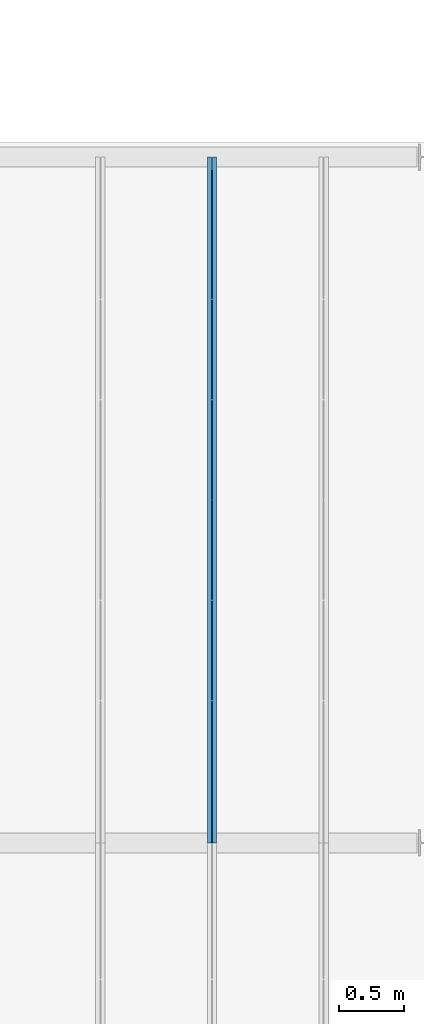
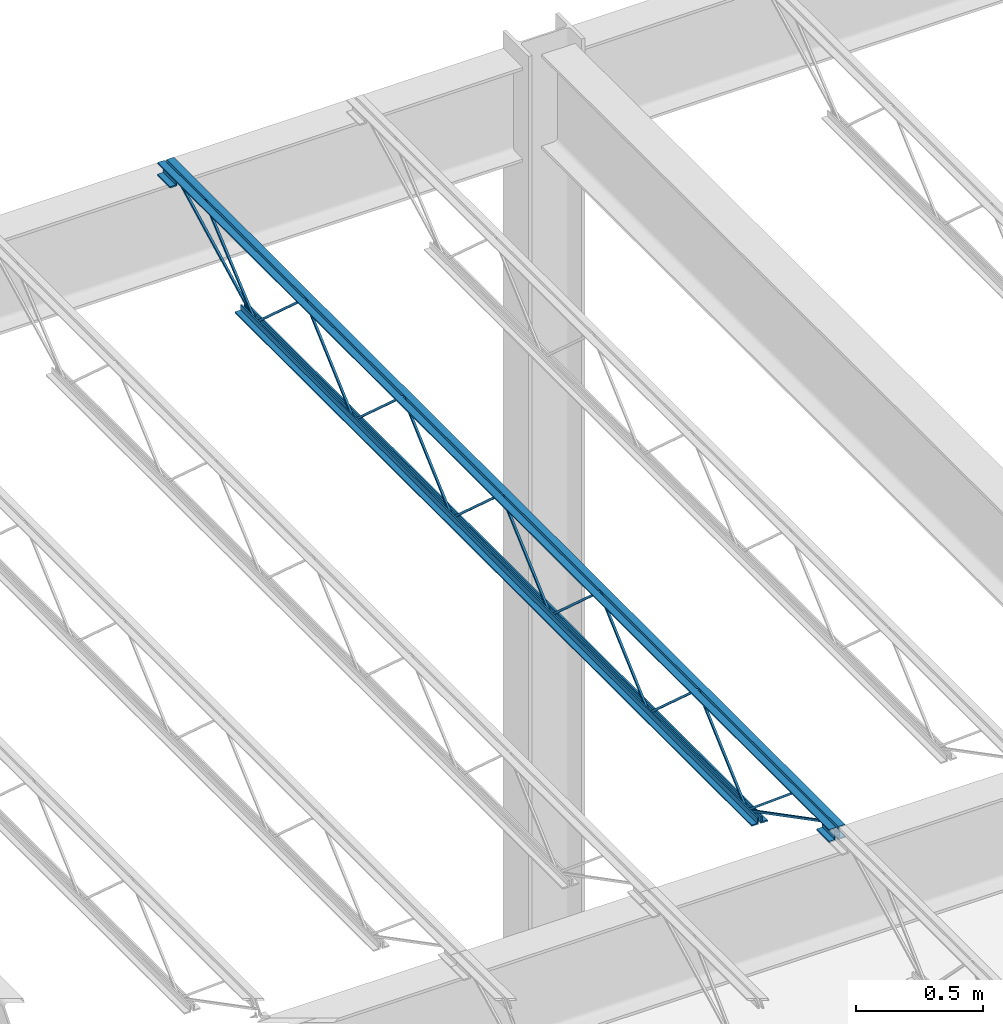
# One storey, part 104 of 119: 1 beam.
"""IFC2X3 building model written with IfcOpenShell, lengths in metres."""

from ifc_helpers import new_model, entity, si_unit, converted_unit, frame, origin, place, context, project, spatial, face_set, surface_model, element, save


model = new_model("IFC2X3")

# Units and contexts
model_context = context("Model", 3, precision=1e-09, world=origin())
plan_context = context("Plan", 3, precision=1e-09, world=origin())
ifc_project = project(units=[si_unit("LENGTHUNIT", "METRE"), si_unit("AREAUNIT", "SQUARE_METRE"), si_unit("VOLUMEUNIT", "CUBIC_METRE"), converted_unit("PLANEANGLEUNIT", "DEGREE", entity("IfcRatioMeasure", 0.01745329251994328), si_unit("PLANEANGLEUNIT", "RADIAN"), dimensions=[0, 0, 0, 0, 0, 0, 0]), si_unit("TIMEUNIT", "SECOND")], contexts=[model_context, plan_context])

# Site, building, storey
site_placement = place(None, origin())
site = spatial("IfcSite", under=ifc_project, at=site_placement, Name="Default", CompositionType="ELEMENT")
building_placement = place(site_placement, origin())
building = spatial("IfcBuilding", under=site, at=building_placement, CompositionType="ELEMENT")
storey_placement = place(building_placement, frame((0.0, 0.0, 4.570000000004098)))
storey = spatial("IfcBuildingStorey", under=building, at=storey_placement, Name="Second Floor", CompositionType="ELEMENT", Elevation=4.570000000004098)

# Beam
beam_placement = place(storey_placement, frame((-16.64339999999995, 44.78049999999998, 4.323999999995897)))
element("IfcBeam", 1, at=beam_placement, inside=storey, Name="M_K-Series Bar Joist-Rod Web:14K1:14K1", ObjectType="M_K-Series Bar Joist-Rod Web:14K1", context=model_context, shape_type="SurfaceModel", body=[
    surface_model("IfcFaceBasedSurfaceModel", [(0.04150000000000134, 3.042999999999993, 0.01110000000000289), (0.0320000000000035, 3.042999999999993, 0.01110000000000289), (0.0320000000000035, 3.042999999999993, 0.001600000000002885), (0.04150000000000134, 3.042999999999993, 0.001600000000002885), (0.03200000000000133, 3.044354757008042, 0.01110000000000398), (0.04150000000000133, 3.044354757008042, 0.01110000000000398), (0.03200000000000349, 3.047995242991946, 0.001600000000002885), (0.03200000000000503, 3.430145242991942, 0.3449000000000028), (0.03200000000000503, 3.432854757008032, 0.3449000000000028), (0.03200000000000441, 3.815004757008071, 0.001600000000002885), (0.0320000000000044, 3.819999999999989, 0.001600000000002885), (0.0320000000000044, 3.819999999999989, 0.01110000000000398), (0.0320000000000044, 3.818645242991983, 0.01110000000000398), (0.03200000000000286, 3.436495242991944, 0.3544000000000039), (0.03200000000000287, 3.426504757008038, 0.3544000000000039), (0.0415000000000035, 3.047995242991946, 0.001600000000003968), (0.04150000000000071, 3.43014524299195, 0.3449000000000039), (0.0415000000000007, 3.432854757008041, 0.3449000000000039), (0.04150000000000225, 3.815004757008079, 0.001600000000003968), (0.04150000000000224, 3.819999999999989, 0.001600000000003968), (0.04150000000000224, 3.819999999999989, 0.01110000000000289), (0.04150000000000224, 3.818645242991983, 0.01110000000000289), (0.04150000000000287, 3.436495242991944, 0.3544000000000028), (0.04150000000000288, 3.426504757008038, 0.3544000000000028), (0.0415000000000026, 2.265999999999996, 0.01110000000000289), (0.03200000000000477, 2.265999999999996, 0.01110000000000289), (0.03200000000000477, 2.265999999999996, 0.001600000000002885), (0.0415000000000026, 2.265999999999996, 0.001600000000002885), (0.0320000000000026, 2.267354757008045, 0.01110000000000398), (0.0415000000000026, 2.267354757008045, 0.01110000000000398), (0.03200000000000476, 2.270995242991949, 0.001600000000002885), (0.03200000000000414, 2.653145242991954, 0.3449000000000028), (0.03200000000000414, 2.655854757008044, 0.3449000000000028), (0.03200000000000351, 3.038004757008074, 0.001600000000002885), (0.03200000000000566, 3.042999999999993, 0.01110000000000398), (0.03200000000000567, 3.041645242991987, 0.01110000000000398), (0.03200000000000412, 2.659495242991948, 0.3544000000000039), (0.03200000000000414, 2.649504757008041, 0.3544000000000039), (0.04150000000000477, 2.270995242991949, 0.001600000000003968), (0.04150000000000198, 2.653145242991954, 0.3449000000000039), (0.04150000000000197, 2.655854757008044, 0.3449000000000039), (0.04150000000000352, 3.038004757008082, 0.001600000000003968), (0.04150000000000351, 3.042999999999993, 0.001600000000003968), (0.04150000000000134, 3.041645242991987, 0.01110000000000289), (0.04150000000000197, 2.659495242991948, 0.3544000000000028), (0.04150000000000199, 2.649504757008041, 0.3544000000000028), (0.04150000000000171, 1.488999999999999, 0.01110000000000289), (0.03200000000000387, 1.488999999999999, 0.01110000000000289), (0.03200000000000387, 1.488999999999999, 0.001600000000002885), (0.04150000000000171, 1.488999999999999, 0.001600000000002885), (0.0320000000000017, 1.490354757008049, 0.01110000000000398), (0.04150000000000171, 1.490354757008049, 0.01110000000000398), (0.03200000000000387, 1.493995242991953, 0.001600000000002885), (0.03200000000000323, 1.876145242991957, 0.3449000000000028), (0.03200000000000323, 1.878854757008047, 0.3449000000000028), (0.03200000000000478, 2.261004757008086, 0.001600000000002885), (0.03200000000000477, 2.266000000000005, 0.001600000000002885), (0.03200000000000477, 2.265999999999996, 0.01110000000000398), (0.03200000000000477, 2.26464524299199, 0.01110000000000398), (0.03200000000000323, 1.882495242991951, 0.3544000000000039), (0.03200000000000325, 1.872504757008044, 0.3544000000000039), (0.04150000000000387, 1.493995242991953, 0.001600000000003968), (0.04150000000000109, 1.876145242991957, 0.3449000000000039), (0.04150000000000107, 1.878854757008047, 0.3449000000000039), (0.04150000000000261, 2.261004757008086, 0.001600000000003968), (0.0415000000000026, 2.265999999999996, 0.001600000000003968), (0.0415000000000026, 2.266000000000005, 0.01110000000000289), (0.04150000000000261, 2.26464524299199, 0.01110000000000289), (0.04150000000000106, 1.88249524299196, 0.3544000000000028), (0.04150000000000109, 1.872504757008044, 0.3544000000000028), (0.04149999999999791, 3.819999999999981, 0.01109999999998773), (0.03200000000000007, 3.819999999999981, 0.01109999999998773), (0.03200000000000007, 3.819999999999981, 0.001599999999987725), (0.04149999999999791, 3.819999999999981, 0.001599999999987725), (0.03200000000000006, 3.82135475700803, 0.01109999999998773), (0.04150000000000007, 3.82135475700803, 0.01109999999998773), (0.03200000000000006, 3.824995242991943, 0.001599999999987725), (0.03199999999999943, 4.207145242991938, 0.3448999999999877), (0.03199999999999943, 4.209854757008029, 0.3448999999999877), (0.03199999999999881, 4.592004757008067, 0.001599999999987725), (0.0319999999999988, 4.596999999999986, 0.001599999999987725), (0.03200000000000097, 4.596999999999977, 0.01109999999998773), (0.03200000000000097, 4.595645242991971, 0.01109999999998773), (0.03199999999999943, 4.213495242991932, 0.3543999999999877), (0.03199999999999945, 4.203504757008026, 0.3543999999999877), (0.04150000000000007, 3.824995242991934, 0.001599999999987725), (0.04149999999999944, 4.207145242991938, 0.3448999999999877), (0.04149999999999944, 4.209854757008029, 0.3448999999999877), (0.04150000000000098, 4.592004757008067, 0.001599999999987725), (0.04150000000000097, 4.596999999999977, 0.001599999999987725), (0.04149999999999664, 4.596999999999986, 0.01109999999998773), (0.04149999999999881, 4.59564524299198, 0.01109999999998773), (0.04149999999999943, 4.213495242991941, 0.3543999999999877), (0.04149999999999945, 4.203504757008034, 0.3543999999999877), (0.04150000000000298, 0.7120000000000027, 0.01110000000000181), (0.03200000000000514, 0.7120000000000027, 0.01110000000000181), (0.03200000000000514, 0.7120000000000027, 0.001600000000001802), (0.04150000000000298, 0.7120000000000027, 0.001600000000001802), (0.03200000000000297, 0.7133547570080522, 0.01110000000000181), (0.04150000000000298, 0.7133547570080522, 0.01110000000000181), (0.03200000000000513, 0.7169952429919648, 0.001600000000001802), (0.0320000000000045, 1.09914524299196, 0.3449000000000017), (0.0320000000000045, 1.101854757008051, 0.3449000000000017), (0.03200000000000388, 1.484004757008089, 0.001600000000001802), (0.03200000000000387, 1.489000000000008, 0.001600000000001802), (0.03200000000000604, 1.488999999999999, 0.01110000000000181), (0.03200000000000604, 1.487645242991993, 0.01110000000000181), (0.0320000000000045, 1.105495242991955, 0.3544000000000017), (0.03200000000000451, 1.095504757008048, 0.3544000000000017), (0.04150000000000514, 0.7169952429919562, 0.001600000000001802), (0.04150000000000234, 1.09914524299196, 0.3449000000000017), (0.04150000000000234, 1.101854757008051, 0.3449000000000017), (0.04150000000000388, 1.484004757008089, 0.001600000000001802), (0.04150000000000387, 1.488999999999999, 0.001600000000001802), (0.04150000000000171, 1.489000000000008, 0.01110000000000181), (0.04150000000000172, 1.487645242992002, 0.01110000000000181), (0.04150000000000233, 1.105495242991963, 0.3544000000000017), (0.04150000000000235, 1.095504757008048, 0.3544000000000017), (0.03200000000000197, 5.309000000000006, 0.3559999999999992), (0.0, 5.309000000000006, 0.3559999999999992), (0.0, 5.309000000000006, 0.3494999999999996), (0.02550000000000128, 5.309000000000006, 0.3494999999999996), (0.02550000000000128, 5.309000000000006, 0.3239999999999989), (0.03200000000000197, 5.309000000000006, 0.3239999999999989), (0.04150000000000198, 5.309000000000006, 0.3559999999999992), (0.04150000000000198, 5.309000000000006, 0.3239999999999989), (0.04800000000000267, 5.309000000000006, 0.3239999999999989), (0.04800000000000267, 5.309000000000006, 0.3494999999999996), (0.0735000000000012, 5.309000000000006, 0.3494999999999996), (0.0735000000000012, 5.309000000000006, 0.3559999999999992), (0.03200000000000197, 0.0, 0.3559999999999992), (0.0, 0.0, 0.3559999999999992), (0.0, 0.0, 0.3494999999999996), (0.02550000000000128, 0.0, 0.3494999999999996), (0.02550000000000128, 0.0, 0.3239999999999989), (0.03200000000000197, 0.0, 0.3239999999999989), (0.04150000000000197, 0.0, 0.3559999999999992), (0.04150000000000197, 0.0, 0.3239999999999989), (0.04800000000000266, 0.0, 0.3239999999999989), (0.04800000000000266, 0.0, 0.3494999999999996), (0.07350000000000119, 0.0, 0.3494999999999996), (0.07350000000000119, 0.0, 0.3559999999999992), (0.04150000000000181, 0.09999999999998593, 0.2924999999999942), (0.07350000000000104, 0.09999999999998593, 0.2924999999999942), (0.07350000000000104, 0.09999999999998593, 0.2989999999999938), (0.0480000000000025, 0.09999999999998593, 0.2989999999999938), (0.0480000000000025, 0.09999999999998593, 0.3239999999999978), (0.04150000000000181, 0.09999999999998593, 0.3239999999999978), (0.0, 0.09999999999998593, 0.2924999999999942), (0.03200000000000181, 0.09999999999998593, 0.2924999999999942), (0.03200000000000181, 0.09999999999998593, 0.3239999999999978), (0.02550000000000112, 0.09999999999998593, 0.3239999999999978), (0.02550000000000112, 0.09999999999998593, 0.2989999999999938), (0.0, 0.09999999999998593, 0.2989999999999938), (0.04150000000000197, 0.0, 0.2924999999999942), (0.07350000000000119, 0.0, 0.2924999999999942), (0.07350000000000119, 0.0, 0.2989999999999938), (0.04800000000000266, 0.0, 0.2989999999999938), (0.04800000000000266, 0.0, 0.3239999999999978), (0.04150000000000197, 0.0, 0.3239999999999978), (0.0, 0.0, 0.2924999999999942), (0.03200000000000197, 0.0, 0.2924999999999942), (0.03200000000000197, 0.0, 0.3239999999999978), (0.02550000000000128, 0.0, 0.3239999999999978), (0.02550000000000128, 0.0, 0.2989999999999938), (0.0, 0.0, 0.2989999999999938), (0.03200000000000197, 5.309000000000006, 0.2924999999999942), (0.03200000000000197, 5.309000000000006, 0.3239999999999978), (0.02550000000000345, 5.309000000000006, 0.3239999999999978), (0.02550000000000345, 5.309000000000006, 0.2989999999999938), (0.0, 5.309000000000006, 0.2989999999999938), (0.0, 5.309000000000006, 0.2924999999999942), (0.04150000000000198, 5.309000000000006, 0.2924999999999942), (0.07350000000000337, 5.309000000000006, 0.2924999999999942), (0.07350000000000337, 5.309000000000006, 0.2989999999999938), (0.04800000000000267, 5.309000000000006, 0.2989999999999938), (0.04800000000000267, 5.309000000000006, 0.3239999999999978), (0.04150000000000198, 5.309000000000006, 0.3239999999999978), (0.03200000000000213, 5.209000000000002, 0.2924999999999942), (0.03200000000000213, 5.209000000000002, 0.3239999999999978), (0.02550000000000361, 5.209000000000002, 0.3239999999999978), (0.02550000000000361, 5.209000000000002, 0.2989999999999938), (0.0, 5.209000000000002, 0.2989999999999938), (0.0, 5.209000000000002, 0.2924999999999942), (0.04150000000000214, 5.209000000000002, 0.2924999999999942), (0.07350000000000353, 5.209000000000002, 0.2924999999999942), (0.07350000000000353, 5.209000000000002, 0.2989999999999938), (0.04800000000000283, 5.209000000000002, 0.2989999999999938), (0.04800000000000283, 5.209000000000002, 0.3239999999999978), (0.04150000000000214, 5.209000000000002, 0.3239999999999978), (0.03200000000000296, 4.697000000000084, 0.0), (0.03200000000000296, 4.697000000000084, 0.03199999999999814), (0.02550000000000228, 4.697000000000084, 0.03199999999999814), (0.02550000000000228, 4.697000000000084, 0.006499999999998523), (0.0, 4.697000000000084, 0.006499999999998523), (0.0, 4.697000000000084, 0.0), (0.04150000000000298, 4.697000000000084, 0.0), (0.0735000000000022, 4.697000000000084, 0.0), (0.0735000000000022, 4.697000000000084, 0.006499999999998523), (0.04800000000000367, 4.697000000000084, 0.006499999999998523), (0.04800000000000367, 4.697000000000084, 0.03199999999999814), (0.04150000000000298, 4.697000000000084, 0.03199999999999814), (0.03200000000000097, 0.6120000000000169, 0.0), (0.03200000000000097, 0.6120000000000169, 0.03199999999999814), (0.02550000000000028, 0.6120000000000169, 0.03199999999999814), (0.02550000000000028, 0.6120000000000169, 0.006499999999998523), (0.0, 0.6120000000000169, 0.006499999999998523), (0.0, 0.6120000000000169, 0.0), (0.04150000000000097, 0.6120000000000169, 0.0), (0.07350000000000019, 0.6120000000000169, 0.0), (0.07350000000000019, 0.6120000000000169, 0.006499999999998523), (0.04800000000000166, 0.6120000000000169, 0.006499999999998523), (0.04800000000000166, 0.6120000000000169, 0.03199999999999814), (0.04150000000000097, 0.6120000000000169, 0.03199999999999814), (0.04150000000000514, 0.7141882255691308, 0.01056594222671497), (0.03200000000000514, 0.7141882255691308, 0.01056594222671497), (0.03200000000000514, 0.709811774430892, 0.00213405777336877), (0.04150000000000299, 0.709811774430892, 0.00213405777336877), (0.04150000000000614, 0.1011592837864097, 0.3287499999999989), (0.04150000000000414, 0.0, 0.3287499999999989), (0.04150000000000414, 0.0, 0.3192499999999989), (0.04150000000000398, 0.09884071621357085, 0.3192499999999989), (0.03200000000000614, 0.09884071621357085, 0.3192499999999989), (0.03200000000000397, 0.1011592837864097, 0.3287499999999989), (0.03200000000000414, 0.0, 0.3287499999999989), (0.03200000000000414, 0.0, 0.3192499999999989), (0.04150000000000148, 0.3035428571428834, 0.3417000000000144), (0.03200000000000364, 0.3035428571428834, 0.3417000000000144), (0.03200000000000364, 0.3035428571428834, 0.3322000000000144), (0.04150000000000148, 0.3035428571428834, 0.3322000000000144), (0.03200000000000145, 0.3179658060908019, 0.3417000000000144), (0.04150000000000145, 0.3179658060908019, 0.3417000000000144), (0.03200000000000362, 0.3145199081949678, 0.3322000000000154), (0.03200000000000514, 0.7089547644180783, 0.002704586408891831), (0.03200000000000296, 0.7150452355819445, 0.009995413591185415), (0.04150000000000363, 0.3145199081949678, 0.3322000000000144), (0.04150000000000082, 0.7089547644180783, 0.002704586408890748), (0.04150000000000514, 0.7150452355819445, 0.009995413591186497), (0.0415000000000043, 5.211188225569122, 0.3197840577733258), (0.04150000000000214, 5.206811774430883, 0.328215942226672), (0.03200000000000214, 5.206811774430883, 0.328215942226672), (0.0320000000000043, 5.211188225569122, 0.3197840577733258), (0.04150000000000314, 4.599188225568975, 0.002134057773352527), (0.04150000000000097, 4.594811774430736, 0.01056594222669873), (0.03200000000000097, 4.594811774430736, 0.01056594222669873), (0.03200000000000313, 4.599188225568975, 0.002134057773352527), (0.04150000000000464, 5.00309445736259, 0.3460340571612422), (0.04150000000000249, 4.996934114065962, 0.35326594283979), (0.03200000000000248, 4.996934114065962, 0.3532659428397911), (0.03200000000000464, 5.00309445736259, 0.3460340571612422), (0.04150000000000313, 4.600080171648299, 0.002734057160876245), (0.04150000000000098, 4.593919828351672, 0.00996594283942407), (0.03200000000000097, 4.593919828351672, 0.00996594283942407), (0.03200000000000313, 4.600080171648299, 0.002734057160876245)], [face_set([[[0, 1, 2, 3]], [[1, 4, 5, 0]], [[2, 6, 7, 8, 9, 10, 11, 12, 13, 14, 4, 1]], [[3, 2, 6, 15]], [[0, 3, 15, 16, 17, 18, 19, 20, 21, 22, 23, 5]], [[4, 5, 23, 14]], [[15, 16, 7, 6]], [[14, 13, 22, 23]], [[16, 7, 8, 17]], [[13, 12, 21, 22]], [[17, 8, 9, 18]], [[20, 11, 10, 19]], [[12, 11, 20, 21]], [[18, 9, 10, 19]]]), face_set([[[24, 25, 26, 27]], [[25, 28, 29, 24]], [[26, 30, 31, 32, 33, 2, 34, 35, 36, 37, 28, 25]], [[27, 26, 30, 38]], [[24, 27, 38, 39, 40, 41, 42, 0, 43, 44, 45, 29]], [[28, 29, 45, 37]], [[38, 39, 31, 30]], [[37, 36, 44, 45]], [[39, 31, 32, 40]], [[36, 35, 43, 44]], [[40, 32, 33, 41]], [[0, 34, 2, 42]], [[35, 34, 0, 43]], [[41, 33, 2, 42]]]), face_set([[[46, 47, 48, 49]], [[47, 50, 51, 46]], [[48, 52, 53, 54, 55, 56, 57, 58, 59, 60, 50, 47]], [[49, 48, 52, 61]], [[46, 49, 61, 62, 63, 64, 65, 66, 67, 68, 69, 51]], [[50, 51, 69, 60]], [[61, 62, 53, 52]], [[60, 59, 68, 69]], [[62, 53, 54, 63]], [[59, 58, 67, 68]], [[63, 54, 55, 64]], [[66, 57, 56, 65]], [[58, 57, 66, 67]], [[64, 55, 56, 65]]]), face_set([[[70, 71, 72, 73]], [[71, 74, 75, 70]], [[72, 76, 77, 78, 79, 80, 81, 82, 83, 84, 74, 71]], [[73, 72, 76, 85]], [[70, 73, 85, 86, 87, 88, 89, 90, 91, 92, 93, 75]], [[74, 75, 93, 84]], [[85, 86, 77, 76]], [[84, 83, 92, 93]], [[86, 77, 78, 87]], [[83, 82, 91, 92]], [[87, 78, 79, 88]], [[90, 81, 80, 89]], [[82, 81, 90, 91]], [[88, 79, 80, 89]]]), face_set([[[94, 95, 96, 97]], [[95, 98, 99, 94]], [[96, 100, 101, 102, 103, 104, 105, 106, 107, 108, 98, 95]], [[97, 96, 100, 109]], [[94, 97, 109, 110, 111, 112, 113, 114, 115, 116, 117, 99]], [[98, 99, 117, 108]], [[109, 110, 101, 100]], [[108, 107, 116, 117]], [[110, 101, 102, 111]], [[107, 106, 115, 116]], [[111, 102, 103, 112]], [[114, 105, 104, 113]], [[106, 105, 114, 115]], [[112, 103, 104, 113]]]), face_set([[[118, 119, 120, 121, 122, 123]], [[124, 125, 126, 127, 128, 129]], [[130, 131, 132, 133, 134, 135]], [[136, 137, 138, 139, 140, 141]], [[123, 118, 130, 135]], [[122, 123, 135, 134]], [[121, 133, 134, 122]], [[120, 121, 133, 132]], [[119, 131, 132, 120]], [[118, 130, 131, 119]], [[129, 141, 136, 124]], [[128, 129, 141, 140]], [[127, 128, 140, 139]], [[126, 127, 139, 138]], [[125, 126, 138, 137]], [[124, 136, 137, 125]]]), face_set([[[142, 143, 144, 145, 146, 147]], [[148, 149, 150, 151, 152, 153]], [[154, 155, 156, 157, 158, 159]], [[160, 161, 162, 163, 164, 165]], [[147, 159, 154, 142]], [[146, 158, 159, 147]], [[145, 146, 158, 157]], [[144, 156, 157, 145]], [[143, 144, 156, 155]], [[142, 143, 155, 154]], [[153, 165, 160, 148]], [[152, 164, 165, 153]], [[151, 163, 164, 152]], [[150, 162, 163, 151]], [[149, 150, 162, 161]], [[148, 149, 161, 160]]]), face_set([[[166, 167, 168, 169, 170, 171]], [[172, 173, 174, 175, 176, 177]], [[178, 179, 180, 181, 182, 183]], [[184, 185, 186, 187, 188, 189]], [[171, 166, 178, 183]], [[170, 182, 183, 171]], [[169, 181, 182, 170]], [[168, 180, 181, 169]], [[167, 179, 180, 168]], [[166, 167, 179, 178]], [[177, 189, 184, 172]], [[176, 188, 189, 177]], [[175, 176, 188, 187]], [[174, 186, 187, 175]], [[173, 174, 186, 185]], [[172, 173, 185, 184]]]), face_set([[[190, 191, 192, 193, 194, 195]], [[196, 197, 198, 199, 200, 201]], [[202, 203, 204, 205, 206, 207]], [[208, 209, 210, 211, 212, 213]], [[195, 190, 202, 207]], [[194, 206, 207, 195]], [[193, 205, 206, 194]], [[192, 204, 205, 193]], [[191, 203, 204, 192]], [[190, 191, 203, 202]], [[201, 213, 208, 196]], [[200, 212, 213, 201]], [[199, 200, 212, 211]], [[198, 210, 211, 199]], [[197, 198, 210, 209]], [[196, 197, 209, 208]]]), face_set([[[214, 215, 216, 217]], [[217, 214, 218, 219, 220, 221]], [[216, 217, 221, 222]], [[215, 223, 224, 225, 222, 216]], [[214, 218, 223, 215]], [[219, 224, 225, 220]], [[222, 221, 220, 225]], [[218, 219, 224, 223]]]), face_set([[[226, 227, 228, 229]], [[227, 230, 231, 226]], [[228, 232, 233, 234, 230, 227]], [[229, 228, 232, 235]], [[226, 229, 235, 236, 237, 231]], [[237, 234, 233, 236]], [[230, 234, 237, 231]], [[235, 232, 233, 236]]]), face_set([[[238, 239, 240, 241]], [[242, 243, 244, 245]], [[241, 245, 242, 238]], [[240, 244, 245, 241]], [[239, 240, 244, 243]], [[238, 239, 243, 242]]]), face_set([[[246, 247, 248, 249]], [[250, 251, 252, 253]], [[249, 253, 250, 246]], [[248, 252, 253, 249]], [[247, 248, 252, 251]], [[246, 247, 251, 250]]])]),
])

save(model, "model.ifc")
